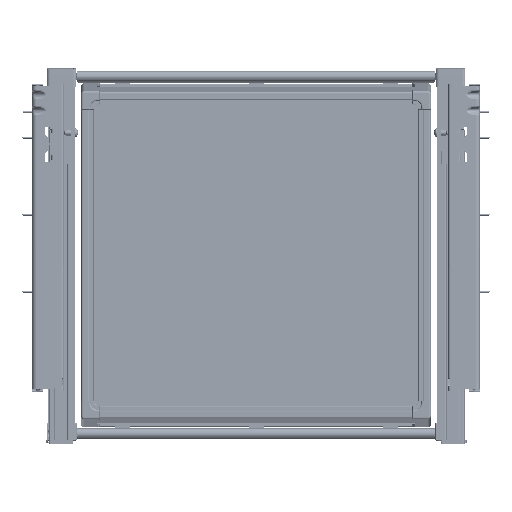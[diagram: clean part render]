
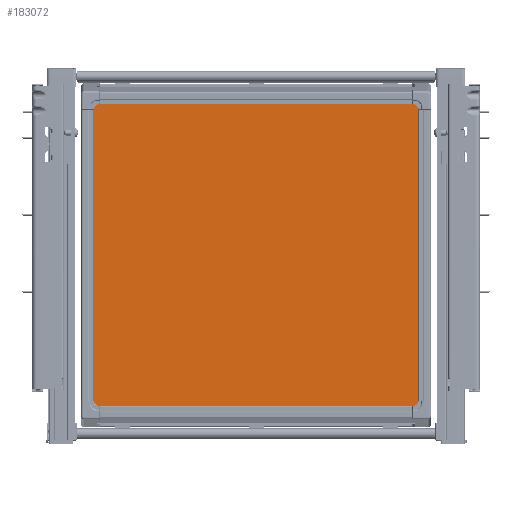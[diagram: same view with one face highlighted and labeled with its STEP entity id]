
A CAD part, front view. The second image highlights one B-rep face of the part: STEP entity #183072.
In plain terms, the highlighted planar face has unit normal (0, -1, 0).
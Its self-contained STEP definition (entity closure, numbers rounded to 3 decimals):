
#17519 = VERTEX_POINT ( 'NONE', #209697 ) ;
#19100 = VERTEX_POINT ( 'NONE', #143244 ) ;
#39181 = LINE ( 'NONE', #113519, #196113 ) ;
#48845 = VECTOR ( 'NONE', #106531, 1000. ) ;
#49015 = FACE_OUTER_BOUND ( 'NONE', #235517, .T. ) ;
#55709 = AXIS2_PLACEMENT_3D ( 'NONE', #180571, #86796, #89181 ) ;
#61294 = DIRECTION ( 'NONE',  ( 0., 0., -1. ) ) ;
#64210 = EDGE_CURVE ( 'NONE', #237888, #17519, #85711, .T. ) ;
#67553 = CARTESIAN_POINT ( 'NONE',  ( -208.5, 0., -194. ) ) ;
#71783 = ORIENTED_EDGE ( 'NONE', *, *, #90379, .F. ) ;
#82017 = CARTESIAN_POINT ( 'NONE',  ( 208.5, 0., -194. ) ) ;
#84503 = DIRECTION ( 'NONE',  ( 1., 0., 0. ) ) ;
#85711 = LINE ( 'NONE', #160047, #156948 ) ;
#86796 = DIRECTION ( 'NONE',  ( 0., 1., 0. ) ) ;
#89181 = DIRECTION ( 'NONE',  ( 0., 0., 1. ) ) ;
#90379 = EDGE_CURVE ( 'NONE', #19100, #237888, #178417, .T. ) ;
#98714 = VECTOR ( 'NONE', #61294, 1000. ) ;
#99566 = ORIENTED_EDGE ( 'NONE', *, *, #115328, .F. ) ;
#106531 = DIRECTION ( 'NONE',  ( 0., 0., 1. ) ) ;
#113519 = CARTESIAN_POINT ( 'NONE',  ( -208.5, 0., -194. ) ) ;
#115328 = EDGE_CURVE ( 'NONE', #204936, #19100, #39181, .T. ) ;
#123379 = PLANE ( 'NONE',  #55709 ) ;
#133747 = ORIENTED_EDGE ( 'NONE', *, *, #64210, .F. ) ;
#143244 = CARTESIAN_POINT ( 'NONE',  ( -208.5, 0., -194. ) ) ;
#156948 = VECTOR ( 'NONE', #84503, 1000. ) ;
#160047 = CARTESIAN_POINT ( 'NONE',  ( -208.5, 0., 194. ) ) ;
#178417 = LINE ( 'NONE', #67553, #48845 ) ;
#180571 = CARTESIAN_POINT ( 'NONE',  ( 0., 0., 0. ) ) ;
#183072 = ADVANCED_FACE ( 'NONE', ( #49015 ), #123379, .F. ) ;
#184135 = ORIENTED_EDGE ( 'NONE', *, *, #227881, .F. ) ;
#187817 = DIRECTION ( 'NONE',  ( -1., 0., 0. ) ) ;
#191668 = LINE ( 'NONE', #82017, #98714 ) ;
#196113 = VECTOR ( 'NONE', #187817, 1000. ) ;
#204936 = VERTEX_POINT ( 'NONE', #236089 ) ;
#208555 = CARTESIAN_POINT ( 'NONE',  ( -208.5, 0., 194. ) ) ;
#209697 = CARTESIAN_POINT ( 'NONE',  ( 208.5, 0., 194. ) ) ;
#227881 = EDGE_CURVE ( 'NONE', #17519, #204936, #191668, .T. ) ;
#235517 = EDGE_LOOP ( 'NONE', ( #184135, #133747, #71783, #99566 ) ) ;
#236089 = CARTESIAN_POINT ( 'NONE',  ( 208.5, 0., -194. ) ) ;
#237888 = VERTEX_POINT ( 'NONE', #208555 ) ;
